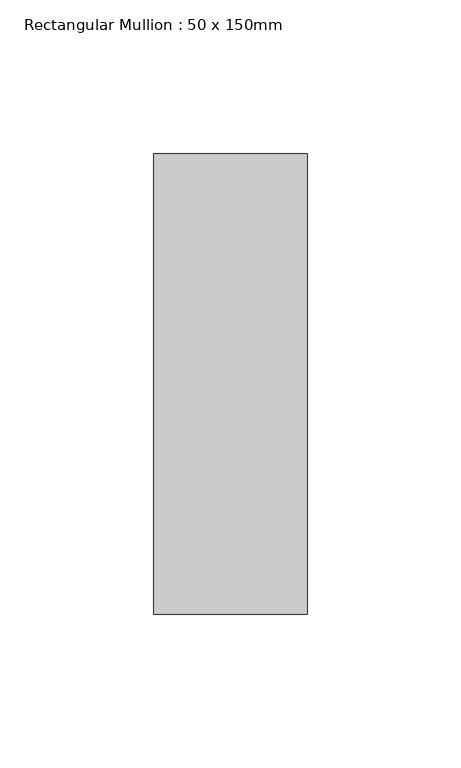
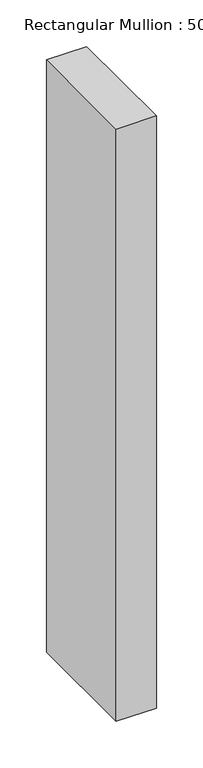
"""IFC4 building model written with IfcOpenShell, lengths in millimetres: member geometry, Rectangular Mullion : 50 x 150mm."""

from ifc_helpers import new_model, si_unit, frame, origin, place, context, project, spatial, polyline, outline, extrude, source, transform, mapped, element, save


def rectangular_mullion_50_x_150mm_987aa74a(model_context):
    return source(origin(), model_context, "Body", "SweptSolid", [
        extrude(outline(polyline([(25.0, 75.0), (25.0, -75.0), (-25.0, -75.0), (-25.0, 75.0), (25.0, 75.0)])), frame((0.0, 0.0, -775.8577186), z_axis=(0.0, 0.0, 1.0), x_axis=(1.0, 0.0, 0.0)), (0.0, 0.0, 1.0), 775.8577186),
    ])


if __name__ == "__main__":
    model = new_model("IFC4")
    model_context = context("Model", 3, world=origin())
    ifc_project = project(units=[si_unit("LENGTHUNIT", "METRE", prefix="MILLI")], contexts=[model_context])
    site = spatial("IfcSite", under=ifc_project)
    building = spatial("IfcBuilding", under=site)
    placement = place(None, origin())
    rectangular_mullion_50_x_150mm_shape = rectangular_mullion_50_x_150mm_987aa74a(model_context)
    element("IfcMember", 1, ObjectType="Rectangular Mullion : 50 x 150mm", at=placement, inside=building, context=model_context, shape_type="MappedRepresentation", body=[
        mapped(rectangular_mullion_50_x_150mm_shape, transform((0.0, 0.0, 0.0), x_axis=(1.0, 0.0, 0.0), y_axis=(0.0, 1.0, 0.0), z_axis=(0.0, 0.0, 1.0))),
    ])
    save(model, "model.ifc")
